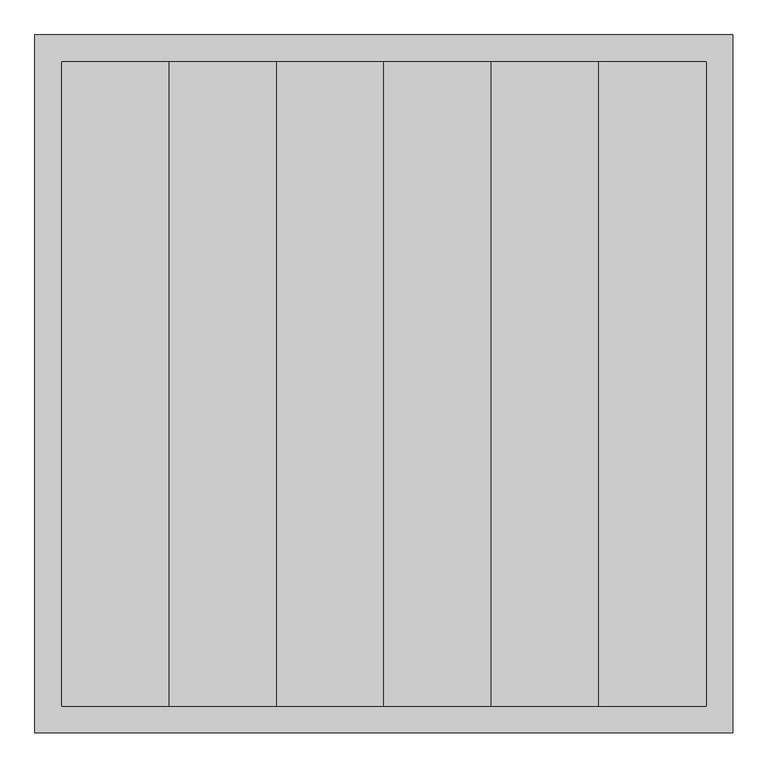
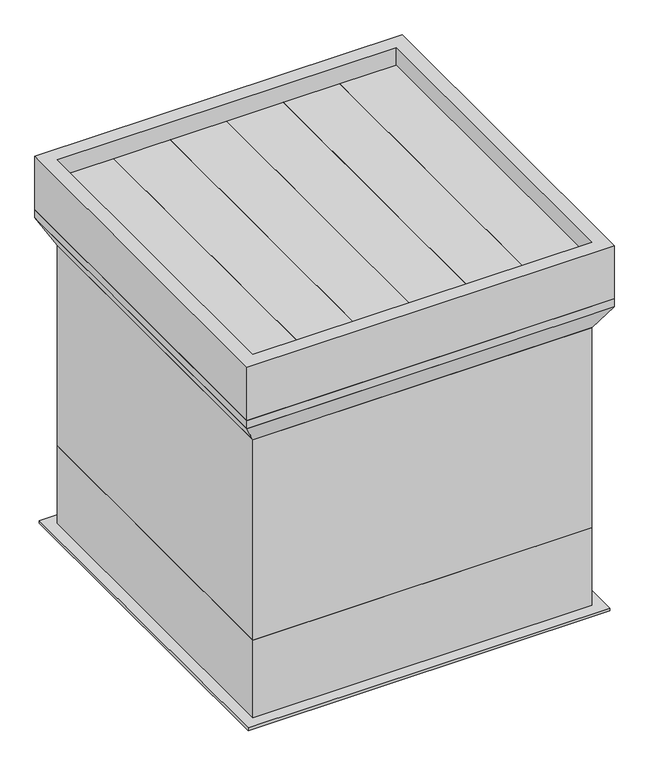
"""IFC4 building model written with IfcOpenShell, lengths in millimetres: proxy geometry, MERCOR - mcr EXi-F - obudowa skrzynkowa – montaż pionowy z klapą mcr LAM : mcr EXi-F 100-1S."""

from ifc_helpers import new_model, si_unit, point, frame, origin, origin_2d, place, context, project, spatial, polyline, circle_curve, trimmed, segment, composite_curve, outline, extrude, faceted_brep, source, transform, mapped, element, save
from ifc_brep_helpers import plane_surface, cylinder_surface, revolved_surface, advanced_brep


def mechanical_equipment_a3e39775(model_context):
    return source(origin(), model_context, "Body", "SolidModel", [
        extrude(outline(polyline([(600.0, -600.0), (400.0, -600.0), (400.0, 600.0), (600.0, 600.0), (600.0, -600.0)])), frame((0.0, 0.0, 560.0), z_axis=(0.0, 0.0, 1.0), x_axis=(1.0, 0.0, 0.0)), (0.0, 0.0, 1.0), 70.0),
        extrude(outline(polyline([(400.0, -600.0), (200.0, -600.0), (200.0, 600.0), (400.0, 600.0), (400.0, -600.0)])), frame((0.0, 0.0, 560.0), z_axis=(0.0, 0.0, 1.0), x_axis=(1.0, 0.0, 0.0)), (0.0, 0.0, 1.0), 70.0),
        extrude(outline(polyline([(200.0, -600.0), (0.0, -600.0), (0.0, 600.0), (200.0, 600.0), (200.0, -600.0)])), frame((0.0, 0.0, 560.0), z_axis=(0.0, 0.0, 1.0), x_axis=(1.0, 0.0, 0.0)), (0.0, 0.0, 1.0), 70.0),
        extrude(outline(polyline([(0.0, -600.0), (-200.0, -600.0), (-200.0, 600.0), (0.0, 600.0), (0.0, -600.0)])), frame((0.0, 0.0, 560.0), z_axis=(0.0, 0.0, 1.0), x_axis=(1.0, 0.0, 0.0)), (0.0, 0.0, 1.0), 70.0),
        extrude(outline(polyline([(-200.0, -600.0), (-400.0, -600.0), (-400.0, 600.0), (-200.0, 600.0), (-200.0, -600.0)])), frame((0.0, 0.0, 560.0), z_axis=(0.0, 0.0, 1.0), x_axis=(1.0, 0.0, 0.0)), (0.0, 0.0, 1.0), 70.0),
        extrude(outline(polyline([(-400.0, -600.0), (-600.0, -600.0), (-600.0, 600.0), (-400.0, 600.0), (-400.0, -600.0)])), frame((0.0, 0.0, 560.0), z_axis=(0.0, 0.0, 1.0), x_axis=(1.0, 0.0, 0.0)), (0.0, 0.0, 1.0), 70.0),
        faceted_brep([(-600.0, -600.0, -375.0), (600.0, -600.0, -375.0), (600.0, 600.0, -375.0), (-600.0, 600.0, -375.0), (-550.0, -550.0, -375.0), (-550.0, 550.0, -375.0), (550.0, 550.0, -375.0), (550.0, -550.0, -375.0), (-600.0, -600.0, -665.0), (600.0, -600.0, -665.0), (600.0, 600.0, -665.0), (-600.0, 600.0, -665.0), (-640.0, 640.0, -665.0), (-640.0, -640.0, -665.0), (640.0, -640.0, -665.0), (640.0, 640.0, -665.0), (-640.0, 640.0, -675.0), (-640.0, -640.0, -675.0), (640.0, -640.0, -675.0), (640.0, 640.0, -675.0), (-550.0, -550.0, -675.0), (550.0, -550.0, -675.0), (550.0, 550.0, -675.0), (-550.0, 550.0, -675.0)], [[[0, 1, 2, 3], [4, 5, 6, 7]], [[1, 0, 8, 9]], [[2, 1, 9, 10]], [[3, 2, 10, 11]], [[0, 3, 11, 8]], [[12, 13, 14, 15], [9, 8, 11, 10]], [[16, 17, 13, 12]], [[17, 18, 14, 13]], [[18, 19, 15, 14]], [[19, 16, 12, 15]], [[16, 19, 18, 17], [20, 21, 22, 23]], [[4, 7, 21, 20]], [[21, 7, 6, 22]], [[22, 6, 5, 23]], [[4, 20, 23, 5]]]),
        advanced_brep(
        [(503.0, 0.0, 230.0), (-503.0, 0.0, 230.0), (-500.0, 0.0, 230.0), (500.0, 0.0, 230.0), (503.0, 0.0, 55.0), (-503.0, 0.0, 55.0), (-500.0, 0.0, 5.0), (500.0, 0.0, 5.0), (-600.0, -600.0, 375.0), (600.0, -600.0, 375.0), (600.0, 600.0, 375.0), (-600.0, 600.0, 375.0), (550.0, -550.0, 375.0), (-550.0, -550.0, 375.0), (-550.0, 550.0, 375.0), (550.0, 550.0, 375.0), (-600.0, -600.0, -375.0), (-600.0, 600.0, -375.0), (600.0, 600.0, -375.0), (600.0, -600.0, -375.0), (-550.0, -550.0, -375.0), (550.0, -550.0, -375.0), (550.0, 550.0, -375.0), (-550.0, 550.0, -375.0), (-550.0, -550.0, 55.0), (550.0, -550.0, 55.0), (550.0, 550.0, 55.0), (-550.0, 550.0, 55.0), (-550.0, -550.0, 5.0), (-550.0, 550.0, 5.0), (550.0, 550.0, 5.0), (550.0, -550.0, 5.0)],
        [
            (0, 1, circle_curve(frame((0.0, 0.0, 230.0), z_axis=(0.0, 0.0, 1.0), x_axis=(-1.0, 0.0, 0.0)), 503.0)),
            (1, 0, circle_curve(frame((0.0, 0.0, 230.0), z_axis=(0.0, 0.0, 1.0), x_axis=(-1.0, 0.0, 0.0)), 503.0)),
            (2, 3, circle_curve(frame((0.0, 0.0, 230.0), z_axis=(0.0, 0.0, -1.0), x_axis=(-1.0, 0.0, 0.0)), 500.0)),
            (3, 2, circle_curve(frame((0.0, 0.0, 230.0), z_axis=(0.0, 0.0, -1.0), x_axis=(-1.0, 0.0, 0.0)), 500.0)),
            (0, 4),
            (4, 5, circle_curve(frame((0.0, 0.0, 55.0), z_axis=(0.0, 0.0, 1.0), x_axis=(-1.0, 0.0, 0.0)), 503.0)),
            (5, 1),
            (5, 4, circle_curve(frame((0.0, 0.0, 55.0), z_axis=(0.0, 0.0, 1.0), x_axis=(-1.0, 0.0, 0.0)), 503.0)),
            (2, 6),
            (6, 7, circle_curve(frame((0.0, 0.0, 5.0), z_axis=(0.0, 0.0, -1.0), x_axis=(-1.0, 0.0, 0.0)), 500.0)),
            (7, 3),
            (7, 6, circle_curve(frame((0.0, 0.0, 5.0), z_axis=(0.0, 0.0, -1.0), x_axis=(-1.0, 0.0, 0.0)), 500.0)),
            (8, 9),
            (9, 10),
            (10, 11),
            (11, 8),
            (12, 13),
            (13, 14),
            (14, 15),
            (15, 12),
            (16, 17),
            (17, 18),
            (18, 19),
            (19, 16),
            (20, 21),
            (21, 22),
            (22, 23),
            (23, 20),
            (8, 16),
            (19, 9),
            (18, 10),
            (17, 11),
            (24, 25),
            (25, 26),
            (26, 27),
            (27, 24),
            (24, 13),
            (12, 25),
            (15, 26),
            (14, 27),
            (28, 29),
            (29, 30),
            (30, 31),
            (31, 28),
            (31, 21),
            (20, 28),
            (30, 22),
            (29, 23),
        ],
        [
            plane_surface(frame((-503.0, 0.0, 230.0), z_axis=(0.0, 0.0, 1.0), x_axis=(0.0, -1.0, 0.0))),
            cylinder_surface(frame((0.0, 0.0, 0.0), z_axis=(0.0, 0.0, 1.0), x_axis=(-1.0, 0.0, 0.0)), 503.0),
            revolved_surface(polyline([(-500.0, 0.0, 230.0), (-500.0, 0.0, 5.0)]), (0.0, 0.0, -375.0), (0.0, 0.0, 1.0)),
            plane_surface(frame((600.0, -600.0, 375.0), z_axis=(0.0, 0.0, 1.0), x_axis=(1.0, 0.0, 0.0))),
            plane_surface(frame((600.0, -600.0, -375.0), z_axis=(0.0, 0.0, -1.0), x_axis=(-1.0, 0.0, 0.0))),
            plane_surface(frame((-600.0, -600.0, 375.0), z_axis=(0.0, -1.0, 0.0), x_axis=(0.0, 0.0, -1.0))),
            plane_surface(frame((600.0, -600.0, 375.0), z_axis=(1.0, 0.0, 0.0), x_axis=(0.0, 0.0, -1.0))),
            plane_surface(frame((600.0, 600.0, 375.0), z_axis=(0.0, 1.0, 0.0), x_axis=(0.0, 0.0, -1.0))),
            plane_surface(frame((-600.0, 600.0, 375.0), z_axis=(-1.0, 0.0, 0.0), x_axis=(0.0, 0.0, -1.0))),
            plane_surface(frame((550.0, -550.0, 55.0), z_axis=(0.0, 0.0, 1.0), x_axis=(-1.0, 0.0, 0.0))),
            plane_surface(frame((-550.0, -550.0, 495.0), z_axis=(0.0, 1.0, 0.0), x_axis=(0.0, 0.0, -1.0))),
            plane_surface(frame((550.0, -550.0, 495.0), z_axis=(-1.0, 0.0, 0.0), x_axis=(0.0, 0.0, -1.0))),
            plane_surface(frame((550.0, 550.0, 495.0), z_axis=(0.0, -1.0, 0.0), x_axis=(0.0, 0.0, -1.0))),
            plane_surface(frame((-550.0, 550.0, 495.0), z_axis=(1.0, 0.0, 0.0), x_axis=(0.0, 0.0, -1.0))),
            plane_surface(frame((-550.0, -550.0, 5.0), z_axis=(0.0, 0.0, -1.0), x_axis=(1.0, 0.0, 0.0))),
            plane_surface(frame((-550.0, -550.0, 5.0), z_axis=(0.0, 1.0, 0.0), x_axis=(0.0, 0.0, -1.0))),
            plane_surface(frame((550.0, -550.0, 5.0), z_axis=(-1.0, 0.0, 0.0), x_axis=(0.0, 0.0, -1.0))),
            plane_surface(frame((550.0, 550.0, 5.0), z_axis=(0.0, -1.0, 0.0), x_axis=(0.0, 0.0, -1.0))),
            plane_surface(frame((-550.0, 550.0, 5.0), z_axis=(1.0, 0.0, 0.0), x_axis=(0.0, 0.0, -1.0))),
        ],
        [
            (0, [[1, 2], [3, 4]]),
            (1, [[-1, 5, 6, 7]]),
            (1, [[-2, -7, 8, -5]]),
            (2, [[-3, 9, 10, 11]]),
            (2, [[-4, -11, 12, -9]]),
            (3, [[13, 14, 15, 16], [17, 18, 19, 20]]),
            (4, [[21, 22, 23, 24], [25, 26, 27, 28]]),
            (5, [[-13, 29, -24, 30]]),
            (6, [[-14, -30, -23, 31]]),
            (7, [[-15, -31, -22, 32]]),
            (8, [[-16, -32, -21, -29]]),
            (9, [[33, 34, 35, 36], [-6, -8]]),
            (10, [[-33, 37, -17, 38]]),
            (11, [[-34, -38, -20, 39]]),
            (12, [[-35, -39, -19, 40]]),
            (13, [[-36, -40, -18, -37]]),
            (14, [[41, 42, 43, 44], [-10, -12]]),
            (15, [[-44, 45, -25, 46]]),
            (16, [[-43, 47, -26, -45]]),
            (17, [[-42, 48, -27, -47]]),
            (18, [[-41, -46, -28, -48]]),
        ],
    ),
        extrude(outline(polyline([(-650.0, -650.0), (-650.0, 650.0), (650.0, 650.0), (650.0, -650.0), (-650.0, -650.0)]), holes=[polyline([(-550.0, -550.0), (550.0, -550.0), (550.0, 550.0), (-550.0, 550.0), (-550.0, -550.0)])]), frame((0.0, 0.0, 465.0), z_axis=(0.0, 0.0, 1.0), x_axis=(1.0, 0.0, 0.0)), (0.0, 0.0, 1.0), 30.0),
        faceted_brep([(-550.0, -550.0, 375.0), (-550.0, -550.0, 465.0), (550.0, -550.0, 465.0), (550.0, -550.0, 375.0), (550.0, 550.0, 465.0), (550.0, 550.0, 375.0), (-550.0, 550.0, 465.0), (-550.0, 550.0, 375.0), (-600.0, -600.0, 375.0), (-600.0, 600.0, 375.0), (600.0, 600.0, 375.0), (600.0, -600.0, 375.0), (650.0, -650.0, 465.0), (-650.0, -650.0, 465.0), (650.0, 650.0, 465.0), (-650.0, 650.0, 465.0)], [[[0, 1, 2, 3]], [[3, 2, 4, 5]], [[5, 4, 6, 7]], [[1, 0, 7, 6]], [[8, 9, 10, 11], [0, 3, 5, 7]], [[12, 13, 8, 11]], [[14, 12, 11, 10]], [[15, 14, 10, 9]], [[13, 15, 9, 8]], [[13, 12, 14, 15], [2, 1, 6, 4]]]),
        extrude(outline(polyline([(-650.0, -650.0), (-650.0, 650.0), (650.0, 650.0), (650.0, -650.0), (-650.0, -650.0)]), holes=[polyline([(-600.0, -600.0), (600.0, -600.0), (600.0, 600.0), (-600.0, 600.0), (-600.0, -600.0)])]), frame((0.0, 0.0, 495.0), z_axis=(0.0, 0.0, 1.0), x_axis=(1.0, 0.0, 0.0)), (0.0, 0.0, 1.0), 200.0),
        extrude(outline(composite_curve([segment(polyline([(92.4838891, -92.97), (221.361284, -291.4617047), (218.8444261, -293.0958591), (88.9060018, -92.97), (-89.4876573, -92.97), (-219.2861496, -292.8039702), (-221.8020187, -291.1698335), (-93.0649499, -92.97), (-491.2805503, -92.97)]), True, "CONTINUOUS"), segment(trimmed(circle_curve(origin_2d(), 500.0), [point((-491.2805503, -92.97))], [point((-491.8387938, -89.97))], False, "CARTESIAN"), True, "CONTINUOUS"), segment(polyline([(-491.8387938, -89.97), (491.8387938, -89.97)]), True, "CONTINUOUS"), segment(trimmed(circle_curve(origin_2d(), 500.0), [point((491.8387938, -89.97))], [point((491.2805503, -92.97))], False, "CARTESIAN"), True, "CONTINUOUS"), segment(polyline([(491.2805503, -92.97), (92.4838891, -92.97)]), True, "CONTINUOUS")], self_intersect=False)), frame((0.0, 0.0, -92.817), z_axis=(0.0, 0.0, 1.0), x_axis=(1.0, 0.0, 0.0)), (0.0, 0.0, 1.0), 186.317),
        advanced_brep(
        [(0.0, -210.0, 118.0), (0.0, 210.0, 118.0), (0.0, -210.0, -127.01), (0.0, 210.0, -127.01), (0.0, 210.0, 6.5), (44.25, 205.2850153, 6.5), (44.25, 205.2850153, 92.5), (0.0, 210.0, 92.5), (-44.25, 205.2850153, 92.5), (-44.25, 205.2850153, 6.5), (-44.25, 380.0, 92.5), (-44.25, 380.0, 6.5), (44.25, 380.0, 6.5), (44.25, 380.0, 92.5)],
        [
            (0, 1, circle_curve(frame((0.0, 0.0, 118.0), z_axis=(0.0, 0.0, 1.0), x_axis=(0.0, 1.0, 0.0)), 210.0)),
            (1, 0, circle_curve(frame((0.0, 0.0, 118.0), z_axis=(0.0, 0.0, 1.0), x_axis=(0.0, 1.0, 0.0)), 210.0)),
            (2, 3, circle_curve(frame((0.0, 0.0, -127.01), z_axis=(0.0, 0.0, -1.0), x_axis=(0.0, 1.0, 0.0)), 210.0)),
            (3, 2, circle_curve(frame((0.0, 0.0, -127.01), z_axis=(0.0, 0.0, -1.0), x_axis=(0.0, 1.0, 0.0)), 210.0)),
            (0, 2),
            (3, 4),
            (4, 5, circle_curve(frame((0.0, 0.0, 6.5), z_axis=(0.0, 0.0, -1.0), x_axis=(0.0, 1.0, 0.0)), 210.0)),
            (5, 6),
            (6, 7, circle_curve(frame((0.0, 0.0, 92.5), z_axis=(0.0, 0.0, 1.0), x_axis=(0.0, 1.0, 0.0)), 210.0)),
            (7, 1),
            (7, 8, circle_curve(frame((0.0, 0.0, 92.5), z_axis=(0.0, 0.0, 1.0), x_axis=(0.0, 1.0, 0.0)), 210.0)),
            (8, 9),
            (9, 4, circle_curve(frame((0.0, 0.0, 6.5), z_axis=(0.0, 0.0, -1.0), x_axis=(0.0, 1.0, 0.0)), 210.0)),
            (10, 11),
            (11, 9),
            (8, 10),
            (12, 13),
            (13, 6),
            (5, 12),
            (13, 10),
            (12, 11),
        ],
        [
            plane_surface(frame((0.0, 210.0, 118.0), z_axis=(0.0, 0.0, 1.0), x_axis=(-1.0, 0.0, 0.0))),
            plane_surface(frame((0.0, 210.0, -127.01), z_axis=(0.0, 0.0, -1.0), x_axis=(1.0, 0.0, 0.0))),
            cylinder_surface(frame((0.0, 0.0, -127.01), z_axis=(0.0, 0.0, 1.0), x_axis=(0.0, 1.0, 0.0)), 210.0),
            plane_surface(frame((-44.25, 0.0, 180.0), z_axis=(-1.0, 0.0, 0.0), x_axis=(0.0, 0.0, 1.0))),
            plane_surface(frame((44.25, 0.0, 180.0), z_axis=(1.0, 0.0, 0.0), x_axis=(0.0, 0.0, -1.0))),
            plane_surface(frame((-44.25, 0.0, 92.5), z_axis=(0.0, 0.0, 1.0), x_axis=(1.0, 0.0, 0.0))),
            plane_surface(frame((-44.25, 380.0, 92.5), z_axis=(0.0, 1.0, 0.0), x_axis=(1.0, 0.0, 0.0))),
            plane_surface(frame((-44.25, 380.0, 6.5), z_axis=(0.0, 0.0, -1.0), x_axis=(1.0, 0.0, 0.0))),
        ],
        [
            (0, [[1, 2]]),
            (1, [[3, 4]]),
            (2, [[-1, 5, -4, 6, 7, 8, 9, 10]]),
            (2, [[-2, -10, 11, 12, 13, -6, -3, -5]]),
            (3, [[14, 15, -12, 16]]),
            (4, [[17, 18, -8, 19]]),
            (5, [[20, -16, -11, -9, -18]]),
            (6, [[-14, -20, -17, 21]]),
            (7, [[-21, -19, -7, -13, -15]]),
        ],
    ),
        extrude(outline(composite_curve([segment(trimmed(circle_curve(origin_2d(), 225.0), [point((0.0, -225.0))], [point((0.0, 225.0))], False, "CARTESIAN"), True, "CONTINUOUS"), segment(trimmed(circle_curve(origin_2d(), 225.0), [point((0.0, 225.0))], [point((0.0, -225.0))], False, "CARTESIAN"), True, "CONTINUOUS")], self_intersect=False)), frame((0.0, 0.0, 118.0), z_axis=(0.0, 0.0, 1.0), x_axis=(1.0, 0.0, 0.0)), (0.0, 0.0, 1.0), 98.0),
        extrude(outline(polyline([(-343.3930748, 338.4544965), (-273.6830305, 396.9481689), (-45.5, 125.0102226), (-45.5, 480.0), (45.5, 480.0), (45.5, 125.0102226), (273.6830305, 396.9481689), (343.3930748, 338.4544965), (115.2100443, 66.5165501), (464.8067294, 128.159878), (480.6087135, 38.5423725), (131.0120285, -23.1009554), (438.4421938, -200.5958441), (392.9421938, -279.4041559), (85.5120285, -101.9092672), (206.925683, -435.4905415), (121.4136546, -466.6143745), (0.0, -133.0331002), (-121.4136546, -466.6143745), (-206.925683, -435.4905415), (-85.5120285, -101.9092672), (-392.9421938, -279.4041559), (-438.4421938, -200.5958441), (-131.0120285, -23.1009554), (-480.6087135, 38.5423725), (-464.8067294, 128.159878), (-115.2100443, 66.5165501), (-343.3930748, 338.4544965)])), frame((0.0, 0.0, 148.0), z_axis=(0.0, 0.0, 1.0), x_axis=(1.0, 0.0, 0.0)), (0.0, 0.0, 1.0), 64.0),
    ])


if __name__ == "__main__":
    model = new_model("IFC4")
    model_context = context("Model", 3, world=origin())
    ifc_project = project(units=[si_unit("LENGTHUNIT", "METRE", prefix="MILLI")], contexts=[model_context])
    site = spatial("IfcSite", under=ifc_project)
    building = spatial("IfcBuilding", under=site)
    placement = place(None, origin())
    mechanical_equipment_shape = mechanical_equipment_a3e39775(model_context)
    element("IfcBuildingElementProxy", 1, Name="MERCOR - mcr EXi-F - obudowa skrzynkowa – montaż pionowy z klapą mcr LAM : mcr EXi-F 100-1S", ObjectType="MERCOR - mcr EXi-F - obudowa skrzynkowa – montaż pionowy z klapą mcr LAM : mcr EXi-F 100-1S", at=placement, inside=building, context=model_context, shape_type="MappedRepresentation", body=[
        mapped(mechanical_equipment_shape, transform((0.0, 0.0, 0.0), x_axis=(1.0, 0.0, 0.0), y_axis=(0.0, 1.0, 0.0), z_axis=(0.0, 0.0, 1.0))),
    ])
    save(model, "model.ifc")
